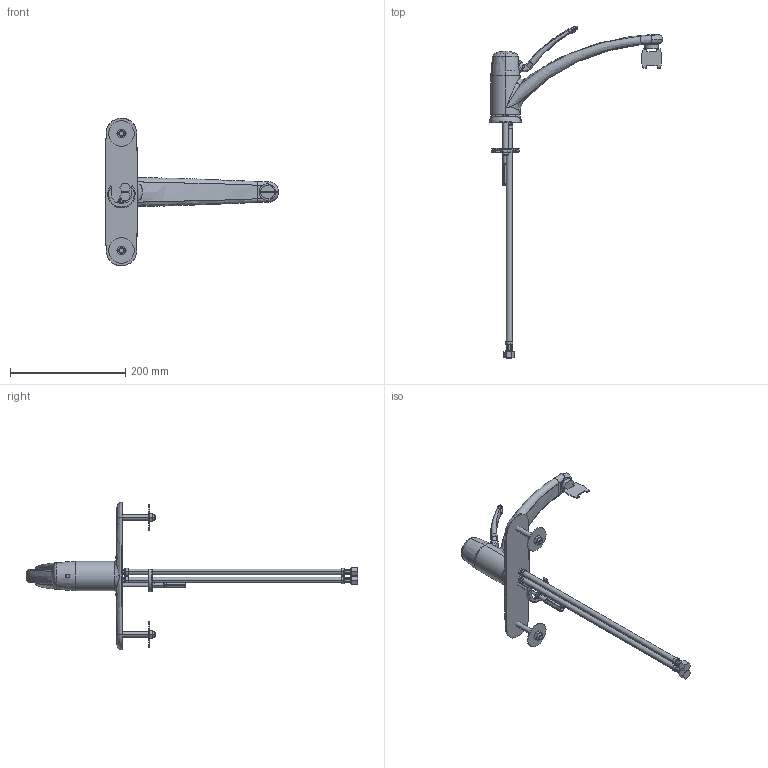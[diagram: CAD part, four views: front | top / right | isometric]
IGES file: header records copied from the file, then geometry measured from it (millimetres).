
Start section:  PTC IGES file: 2300-8e34vpcp_sw0001.igs
Global section: file name: 2300-8e34vpcp_sw0001.igs; native system: Creo Parametric by Parametric Technology Corporation; preprocessor: 2013050; author: jrodriguez; organization: Unknown; date: 20131003.162745; units: inch
Bounding box: 300.99 x 576.53 x 256.54 mm (x, y, z)
Surface area: 141524.4 mm2 (no closed solid volume)
Topology: 0 solids, 0 shells, 420 faces, 3356 edges, 4554 vertices
Faces by surface type: bspline 290, revolution 130
